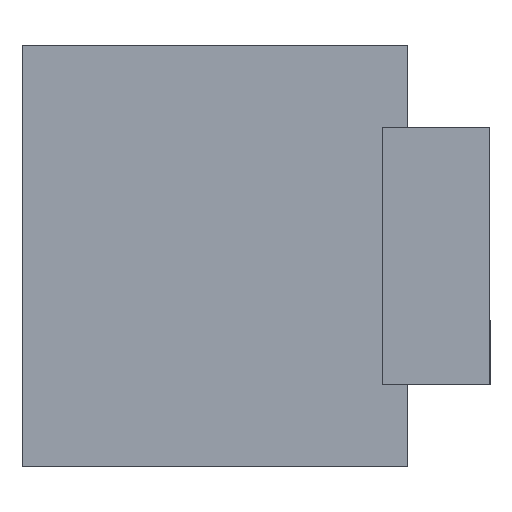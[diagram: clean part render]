
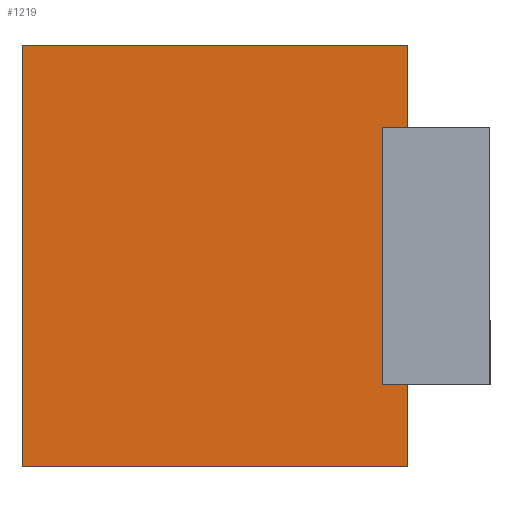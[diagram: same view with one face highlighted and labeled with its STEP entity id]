
A CAD part, front view. The second image highlights one B-rep face of the part: STEP entity #1219.
In plain terms, the highlighted planar face has unit normal (0, -1, 0).
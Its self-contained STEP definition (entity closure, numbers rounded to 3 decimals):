
#497 = DIRECTION ( 'NONE',  ( 0., 0., -1. ) ) ;
#498 = VECTOR ( 'NONE', #497, 1000. ) ;
#499 = CARTESIAN_POINT ( 'NONE',  ( 7., -8., -2.5 ) ) ;
#500 = LINE ( 'NONE', #499, #498 ) ;
#501 = DIRECTION ( 'NONE',  ( 1., 0., 0. ) ) ;
#502 = VECTOR ( 'NONE', #501, 1000. ) ;
#503 = CARTESIAN_POINT ( 'NONE',  ( 7., -8., -2.5 ) ) ;
#504 = LINE ( 'NONE', #503, #502 ) ;
#622 = DIRECTION ( 'NONE',  ( 1., 0., 0. ) ) ;
#623 = VECTOR ( 'NONE', #622, 1000. ) ;
#624 = CARTESIAN_POINT ( 'NONE',  ( 0., -8., -4.1 ) ) ;
#625 = LINE ( 'NONE', #624, #623 ) ;
#627 = DIRECTION ( 'NONE',  ( 1., 0., 0. ) ) ;
#628 = VECTOR ( 'NONE', #627, 1000. ) ;
#629 = CARTESIAN_POINT ( 'NONE',  ( 0., -8., 4.1 ) ) ;
#630 = LINE ( 'NONE', #629, #628 ) ;
#651 = CARTESIAN_POINT ( 'NONE',  ( 7., -8., 2.5 ) ) ;
#652 = CARTESIAN_POINT ( 'NONE',  ( 0., -8., -4.1 ) ) ;
#749 = CARTESIAN_POINT ( 'NONE',  ( 0., -8., 4.1 ) ) ;
#754 = DIRECTION ( 'NONE',  ( 0., 0., -1. ) ) ;
#755 = VECTOR ( 'NONE', #754, 1000. ) ;
#756 = CARTESIAN_POINT ( 'NONE',  ( 0., -8., 4.1 ) ) ;
#757 = LINE ( 'NONE', #756, #755 ) ;
#758 = DIRECTION ( 'NONE',  ( 0., 0., 1. ) ) ;
#759 = DIRECTION ( 'NONE',  ( 0., 1., 0. ) ) ;
#760 = CARTESIAN_POINT ( 'NONE',  ( 0., -8., 4.1 ) ) ;
#761 = AXIS2_PLACEMENT_3D ( 'NONE', #760, #759, #758 ) ;
#762 = PLANE ( 'NONE',  #761 ) ;
#763 = CARTESIAN_POINT ( 'NONE',  ( 7., -8., -2.5 ) ) ;
#764 = FACE_OUTER_BOUND ( 'NONE', #1220, .T. ) ;
#765 = DIRECTION ( 'NONE',  ( 1., 0., 0. ) ) ;
#766 = VECTOR ( 'NONE', #765, 1000. ) ;
#767 = CARTESIAN_POINT ( 'NONE',  ( 7., -8., 2.5 ) ) ;
#768 = LINE ( 'NONE', #767, #766 ) ;
#769 = CARTESIAN_POINT ( 'NONE',  ( 7.5, -8., 2.5 ) ) ;
#770 = CARTESIAN_POINT ( 'NONE',  ( 7.5, -8., 4.1 ) ) ;
#771 = DIRECTION ( 'NONE',  ( 0., 0., 1. ) ) ;
#772 = VECTOR ( 'NONE', #771, 1000. ) ;
#773 = CARTESIAN_POINT ( 'NONE',  ( 7.5, -8., -4.101 ) ) ;
#774 = LINE ( 'NONE', #773, #772 ) ;
#950 = CARTESIAN_POINT ( 'NONE',  ( 7.5, -8., -2.5 ) ) ;
#1004 = CARTESIAN_POINT ( 'NONE',  ( 7.5, -8., -4.1 ) ) ;
#1005 = DIRECTION ( 'NONE',  ( 0., 0., 1. ) ) ;
#1006 = VECTOR ( 'NONE', #1005, 1000. ) ;
#1007 = CARTESIAN_POINT ( 'NONE',  ( 7.5, -8., -4.101 ) ) ;
#1008 = LINE ( 'NONE', #1007, #1006 ) ;
#1185 = EDGE_CURVE ( 'NONE', #1221, #1340, #504, .T. ) ;
#1186 = ORIENTED_EDGE ( 'NONE', *, *, #1187, .F. ) ;
#1187 = EDGE_CURVE ( 'NONE', #1190, #1221, #500, .T. ) ;
#1189 = VERTEX_POINT ( 'NONE', #652 ) ;
#1190 = VERTEX_POINT ( 'NONE', #651 ) ;
#1201 = EDGE_CURVE ( 'NONE', #1227, #1212, #630, .T. ) ;
#1202 = ORIENTED_EDGE ( 'NONE', *, *, #1201, .F. ) ;
#1203 = ORIENTED_EDGE ( 'NONE', *, *, #1223, .T. ) ;
#1204 = ORIENTED_EDGE ( 'NONE', *, *, #1205, .T. ) ;
#1205 = EDGE_CURVE ( 'NONE', #1189, #1358, #625, .T. ) ;
#1211 = EDGE_CURVE ( 'NONE', #1214, #1212, #774, .T. ) ;
#1212 = VERTEX_POINT ( 'NONE', #770 ) ;
#1213 = ORIENTED_EDGE ( 'NONE', *, *, #1211, .T. ) ;
#1214 = VERTEX_POINT ( 'NONE', #769 ) ;
#1215 = EDGE_CURVE ( 'NONE', #1190, #1214, #768, .T. ) ;
#1217 = ORIENTED_EDGE ( 'NONE', *, *, #1215, .T. ) ;
#1218 = ORIENTED_EDGE ( 'NONE', *, *, #1357, .T. ) ;
#1219 = ADVANCED_FACE ( 'NONE', ( #764 ), #762, .F. ) ;
#1220 = EDGE_LOOP ( 'NONE', ( #1218, #1224, #1186, #1217, #1213, #1202, #1203, #1204 ) ) ;
#1221 = VERTEX_POINT ( 'NONE', #763 ) ;
#1223 = EDGE_CURVE ( 'NONE', #1227, #1189, #757, .T. ) ;
#1224 = ORIENTED_EDGE ( 'NONE', *, *, #1185, .F. ) ;
#1227 = VERTEX_POINT ( 'NONE', #749 ) ;
#1340 = VERTEX_POINT ( 'NONE', #950 ) ;
#1357 = EDGE_CURVE ( 'NONE', #1358, #1340, #1008, .T. ) ;
#1358 = VERTEX_POINT ( 'NONE', #1004 ) ;
